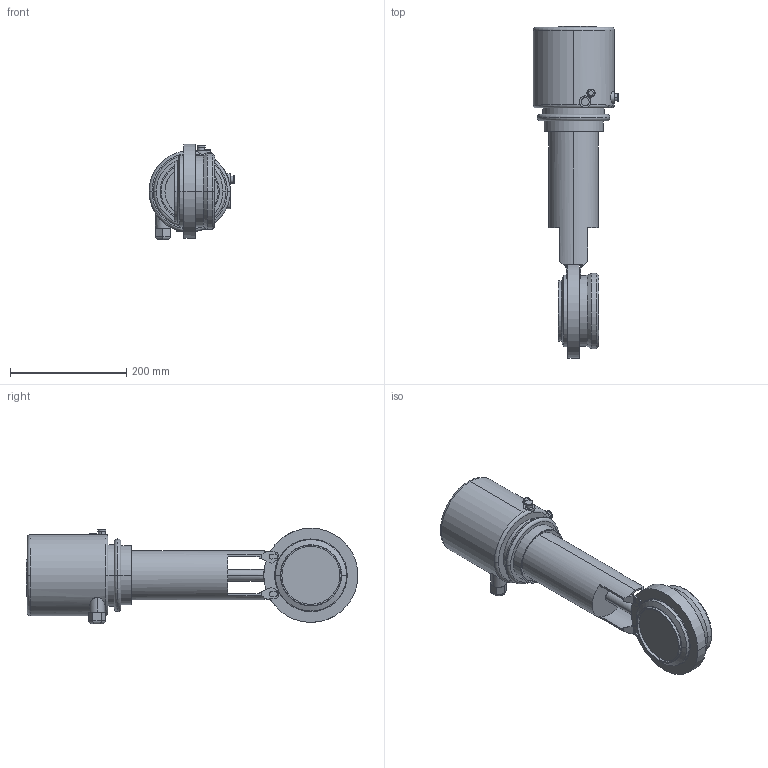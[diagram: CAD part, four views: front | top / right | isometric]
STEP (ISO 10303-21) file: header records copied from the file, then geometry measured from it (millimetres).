
FILE_DESCRIPTION(('Creo Elements/Direct Modeling STEP Export'),'2;1');
FILE_NAME('SV 100 CU4-T-DC 1S+2G.stp','2016-05-17T16:28:55',(''),(''),'PTC Creo Elements/Direct Modeling STEP processor for AP214 (Solid Model)','PTC Creo Elements/Direct Modeling 19.0B 21-Mar-2015 (C) Parametric Technology GmbH','');
FILE_SCHEMA(('AUTOMOTIVE_DESIGN { 1 0 10303 214 1 1 1 1 }'));
Length unit declared in the file: millimetre
Products named in the file (3): CU4-T-SPX_logo; SV1-100-FZ-12S; SV1-100-CU4-_T-DC_1S-2G
Assembly tree (2 placements, depth 2):
  SV1-100-CU4-_T-DC_1S-2G
    SV1-100-FZ-12S
    CU4-T-SPX_logo
Bounding box: 148 x 571.38 x 164.4 mm (x, y, z)
Volume: 4300412.9 mm3; surface area: 270971.3 mm2
Topology: 2 solids, 2 shells, 261 faces, 669 edges, 431 vertices
Faces by surface type: plane 116, cylinder 90, extrusion 33, torus 14, cone 8
Entity records: 11997 total; most frequent: CARTESIAN_POINT 5913, ORIENTED_EDGE 1338, DIRECTION 1098, EDGE_CURVE 669, VERTEX_POINT 431, AXIS2_PLACEMENT_3D 381, VECTOR 336, LINE 303
